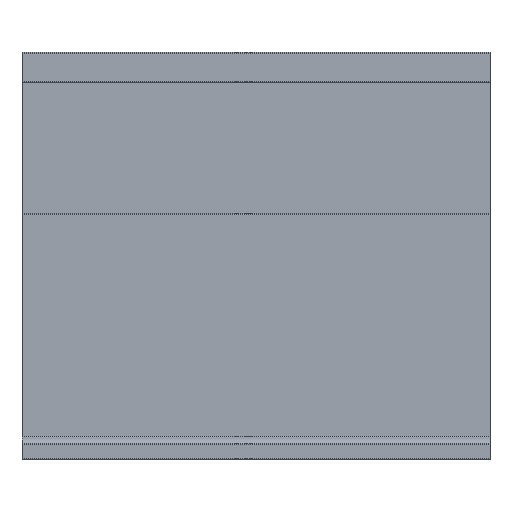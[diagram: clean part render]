
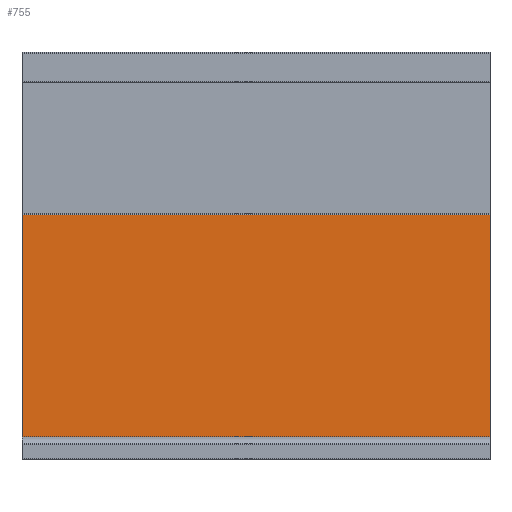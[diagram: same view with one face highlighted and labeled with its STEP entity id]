
A CAD part, top view. The second image highlights one B-rep face of the part: STEP entity #755.
In plain terms, the highlighted planar face has unit normal (0, 0, 1).
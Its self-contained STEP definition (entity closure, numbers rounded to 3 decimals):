
#6 = VECTOR ( 'NONE', #1334, 1000. ) ;
#9 = VECTOR ( 'NONE', #1404, 1000. ) ;
#35 = VECTOR ( 'NONE', #1132, 1000. ) ;
#101 = VECTOR ( 'NONE', #964, 1000. ) ;
#186 = AXIS2_PLACEMENT_3D ( 'NONE', #493, #485, #484 ) ;
#339 = CARTESIAN_POINT ( 'NONE',  ( 0., -1784.113, 2662.359 ) ) ;
#362 = CARTESIAN_POINT ( 'NONE',  ( 100., -1784.113, 2662.359 ) ) ;
#375 = CARTESIAN_POINT ( 'NONE',  ( 100., -1831.613, 2662.359 ) ) ;
#406 = CARTESIAN_POINT ( 'NONE',  ( 0., -1831.613, 2662.359 ) ) ;
#484 = DIRECTION ( 'NONE',  ( -1., 0., 0. ) ) ;
#485 = DIRECTION ( 'NONE',  ( 0., 0., -1. ) ) ;
#488 = PLANE ( 'NONE',  #186 ) ;
#489 = FACE_OUTER_BOUND ( 'NONE', #1067, .T. ) ;
#493 = CARTESIAN_POINT ( 'NONE',  ( 100., -1831.613, 2662.359 ) ) ;
#628 = EDGE_CURVE ( 'NONE', #1329, #1510, #1391, .T. ) ;
#629 = EDGE_CURVE ( 'NONE', #1219, #1510, #1105, .T. ) ;
#630 = EDGE_CURVE ( 'NONE', #1281, #1329, #1107, .T. ) ;
#688 = EDGE_CURVE ( 'NONE', #1281, #1219, #966, .T. ) ;
#755 = ADVANCED_FACE ( 'NONE', ( #489 ), #488, .F. ) ;
#964 = DIRECTION ( 'NONE',  ( -1., 0., 0. ) ) ;
#965 = CARTESIAN_POINT ( 'NONE',  ( 100., -1784.113, 2662.359 ) ) ;
#966 = LINE ( 'NONE', #965, #101 ) ;
#1067 = EDGE_LOOP ( 'NONE', ( #1308, #1307, #1306, #1337 ) ) ;
#1105 = LINE ( 'NONE', #1403, #6 ) ;
#1107 = LINE ( 'NONE', #1333, #35 ) ;
#1132 = DIRECTION ( 'NONE',  ( 0., -1., 0. ) ) ;
#1219 = VERTEX_POINT ( 'NONE', #339 ) ;
#1281 = VERTEX_POINT ( 'NONE', #362 ) ;
#1306 = ORIENTED_EDGE ( 'NONE', *, *, #630, .F. ) ;
#1307 = ORIENTED_EDGE ( 'NONE', *, *, #628, .F. ) ;
#1308 = ORIENTED_EDGE ( 'NONE', *, *, #629, .T. ) ;
#1329 = VERTEX_POINT ( 'NONE', #375 ) ;
#1333 = CARTESIAN_POINT ( 'NONE',  ( 100., -1831.613, 2662.359 ) ) ;
#1334 = DIRECTION ( 'NONE',  ( 0., -1., 0. ) ) ;
#1337 = ORIENTED_EDGE ( 'NONE', *, *, #688, .T. ) ;
#1391 = LINE ( 'NONE', #1405, #9 ) ;
#1403 = CARTESIAN_POINT ( 'NONE',  ( 0., -1831.613, 2662.359 ) ) ;
#1404 = DIRECTION ( 'NONE',  ( -1., 0., 0. ) ) ;
#1405 = CARTESIAN_POINT ( 'NONE',  ( 100., -1831.613, 2662.359 ) ) ;
#1510 = VERTEX_POINT ( 'NONE', #406 ) ;
